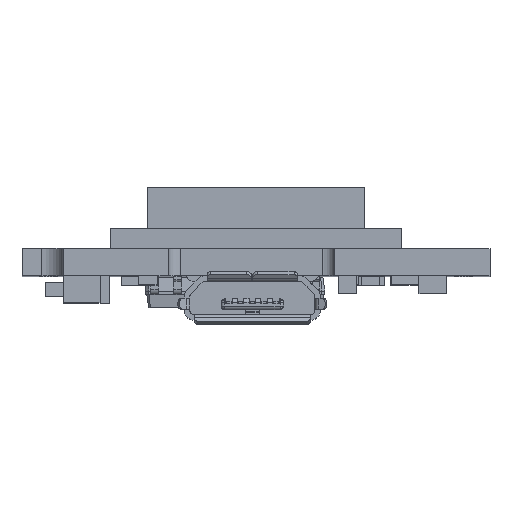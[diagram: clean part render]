
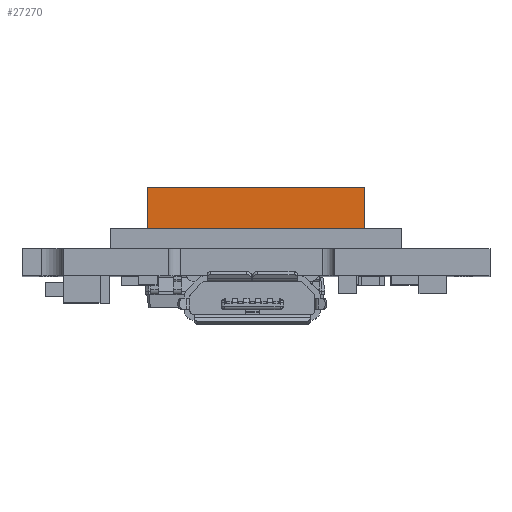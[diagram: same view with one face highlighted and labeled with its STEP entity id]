
A CAD part, top view. The second image highlights one B-rep face of the part: STEP entity #27270.
In plain terms, the highlighted planar face has unit normal (0, 0, 1).
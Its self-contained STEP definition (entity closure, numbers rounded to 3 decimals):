
#330 = AXIS2_PLACEMENT_3D ( 'NONE', #25546, #59277, #30365 ) ;
#939 = VERTEX_POINT ( 'NONE', #15961 ) ;
#3912 = LINE ( 'NONE', #22099, #27994 ) ;
#5397 = VECTOR ( 'NONE', #35650, 1000. ) ;
#6876 = CARTESIAN_POINT ( 'NONE',  ( -18.9, 4.9, -11.65 ) ) ;
#7426 = EDGE_CURVE ( 'NONE', #939, #37777, #32487, .T. ) ;
#10700 = ORIENTED_EDGE ( 'NONE', *, *, #7426, .T. ) ;
#13761 = CARTESIAN_POINT ( 'NONE',  ( -6.9, 4.9, -11.65 ) ) ;
#14826 = EDGE_CURVE ( 'NONE', #34381, #35677, #39797, .T. ) ;
#15763 = LINE ( 'NONE', #17766, #42860 ) ;
#15961 = CARTESIAN_POINT ( 'NONE',  ( -18.9, 4.9, -11.65 ) ) ;
#16065 = ORIENTED_EDGE ( 'NONE', *, *, #61161, .F. ) ;
#17766 = CARTESIAN_POINT ( 'NONE',  ( -18.9, 4.9, -11.65 ) ) ;
#20637 = CARTESIAN_POINT ( 'NONE',  ( -6.9, 4.9, -11.65 ) ) ;
#22099 = CARTESIAN_POINT ( 'NONE',  ( -18.9, 2.6, -11.65 ) ) ;
#23434 = DIRECTION ( 'NONE',  ( 0., -1., 0. ) ) ;
#23684 = ORIENTED_EDGE ( 'NONE', *, *, #27459, .T. ) ;
#25546 = CARTESIAN_POINT ( 'NONE',  ( -18.9, 4.9, -11.65 ) ) ;
#25549 = VECTOR ( 'NONE', #23434, 1000. ) ;
#27270 = ADVANCED_FACE ( 'NONE', ( #35486 ), #54409, .F. ) ;
#27459 = EDGE_CURVE ( 'NONE', #37777, #35677, #3912, .T. ) ;
#27994 = VECTOR ( 'NONE', #46293, 1000. ) ;
#28006 = CARTESIAN_POINT ( 'NONE',  ( -6.9, 2.6, -11.65 ) ) ;
#30365 = DIRECTION ( 'NONE',  ( -1., 0., 0. ) ) ;
#32487 = LINE ( 'NONE', #6876, #5397 ) ;
#34381 = VERTEX_POINT ( 'NONE', #20637 ) ;
#35486 = FACE_OUTER_BOUND ( 'NONE', #48854, .T. ) ;
#35650 = DIRECTION ( 'NONE',  ( 0., -1., 0. ) ) ;
#35677 = VERTEX_POINT ( 'NONE', #28006 ) ;
#37777 = VERTEX_POINT ( 'NONE', #57139 ) ;
#39797 = LINE ( 'NONE', #13761, #25549 ) ;
#42860 = VECTOR ( 'NONE', #51469, 1000. ) ;
#46293 = DIRECTION ( 'NONE',  ( 1., 0., 0. ) ) ;
#48854 = EDGE_LOOP ( 'NONE', ( #23684, #50952, #16065, #10700 ) ) ;
#50952 = ORIENTED_EDGE ( 'NONE', *, *, #14826, .F. ) ;
#51469 = DIRECTION ( 'NONE',  ( 1., 0., 0. ) ) ;
#54409 = PLANE ( 'NONE',  #330 ) ;
#57139 = CARTESIAN_POINT ( 'NONE',  ( -18.9, 2.6, -11.65 ) ) ;
#59277 = DIRECTION ( 'NONE',  ( 0., 0., -1. ) ) ;
#61161 = EDGE_CURVE ( 'NONE', #939, #34381, #15763, .T. ) ;
